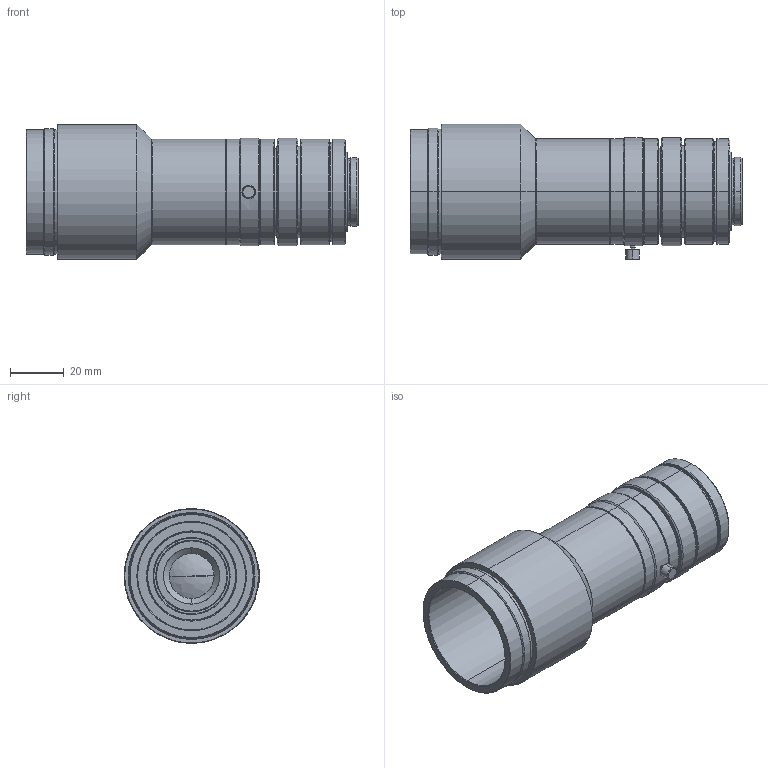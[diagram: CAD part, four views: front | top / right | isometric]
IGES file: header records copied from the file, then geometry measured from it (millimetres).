
Start section: SolidWorks IGES file using analytic representation for surfaces
Bounding box: 122.97 x 50.3 x 50 mm (x, y, z)
Surface area: 30683 mm2 (no closed solid volume)
Topology: 0 solids, 0 shells, 195 faces, 4118 edges, 4116 vertices
Faces by surface type: revolution 164, bspline 31
